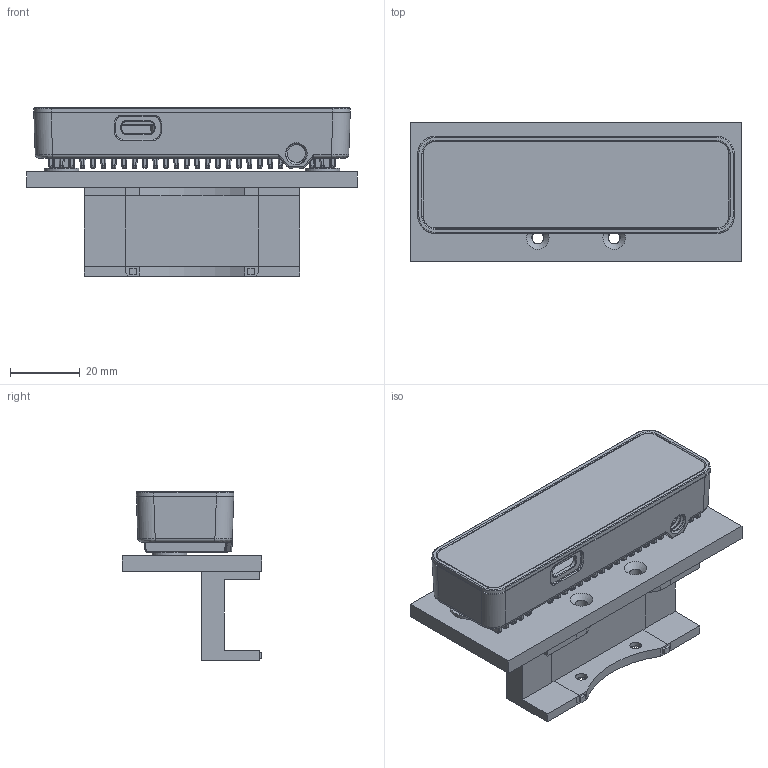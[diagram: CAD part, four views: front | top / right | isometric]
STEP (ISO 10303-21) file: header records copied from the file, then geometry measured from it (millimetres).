
FILE_DESCRIPTION(('Open CASCADE Model'),'2;1');
FILE_NAME('Open CASCADE Shape Model','2026-09-30T10:04:19',('Author'),( 'Open CASCADE'),'Open CASCADE STEP processor 7.9','Open CASCADE 7.9' ,'Unknown');
FILE_SCHEMA(('AUTOMOTIVE_DESIGN { 1 0 10303 214 1 1 1 1 }'));
Length unit declared in the file: millimetre
Products named in the file (3): OAK_D_Lite_B601; PRINT_mount; REFERENCE_camera_do_not_print
Assembly tree (2 placements, depth 2):
  OAK_D_Lite_B601
    PRINT_mount
    REFERENCE_camera_do_not_print
Bounding box: 95 x 40 x 48.45 mm (x, y, z)
Volume: 45818.3 mm3; surface area: 44997.2 mm2
Topology: 14 solids, 14 shells, 2090 faces, 5257 edges, 3256 vertices
Faces by surface type: cylinder 912, plane 514, bspline 475, cone 120, torus 45, sphere 16, extrusion 8
Full cylindrical faces by diameter (mm): 3.3 x2, 3.5 x4, 4.5 x2, 10 x2
Entity records: 394960 total; most frequent: CARTESIAN_POINT 302422, DIRECTION 12990, ORIENTED_EDGE 10514, PCURVE 10514, DEFINITIONAL_REPRESENTATION 10514, VECTOR 7302, LINE 7294, B_SPLINE_CURVE_WITH_KNOTS 6960
